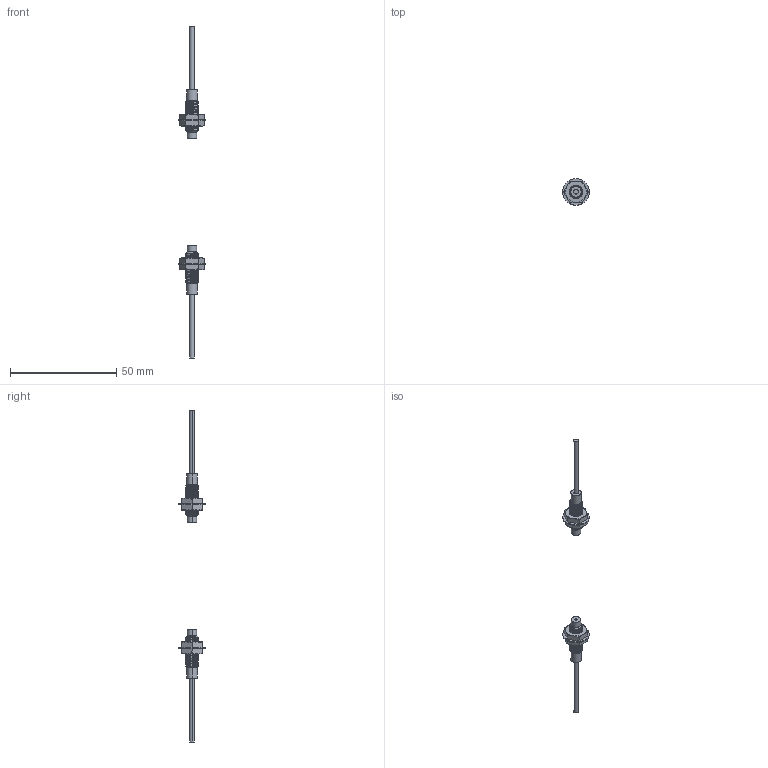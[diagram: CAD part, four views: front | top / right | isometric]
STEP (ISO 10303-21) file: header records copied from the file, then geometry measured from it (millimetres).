
FILE_DESCRIPTION (( 'STEP AP203' ), '1' );
FILE_NAME ('FDT-610.STEP', '2020-11-04T10:17:45', ( '' ), ( '' ), 'SwSTEP 2.0', 'SolidWorks 2020', '' );
FILE_SCHEMA (( 'CONFIG_CONTROL_DESIGN' ));
Length unit declared in the file: millimetre
Products named in the file (7): FDT-610_T; M6蹟譫x2.5.5.5; FDT-610; M6菜えx1x1x1; FDT-610_R
Assembly tree (10 placements, depth 3):
  FDT-610
    FDT-610_T
      FDT-610_T
      M6菜えx1x1x1
      M6蹟譫x2.5.5.5  x2
    FDT-610_R
      FDT-610_R
      M6菜えx1x1x1
      M6蹟譫x2.5.5.5  x2
Bounding box: 12.5 x 12.5 x 156 mm (x, y, z)
Volume: 1956 mm3; surface area: 3063.2 mm2
Topology: 8 solids, 8 shells, 234 faces, 610 edges, 398 vertices
Faces by surface type: cylinder 128, plane 46, cone 34, bspline 18, torus 8
Entity records: 15221 total; most frequent: CARTESIAN_POINT 11114, ORIENTED_EDGE 806, DIRECTION 581, EDGE_CURVE 403, VERTEX_POINT 264, AXIS2_PLACEMENT_3D 225, EDGE_LOOP 163, ADVANCED_FACE 153
